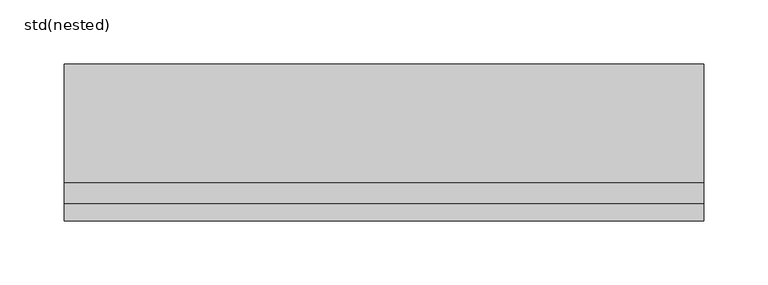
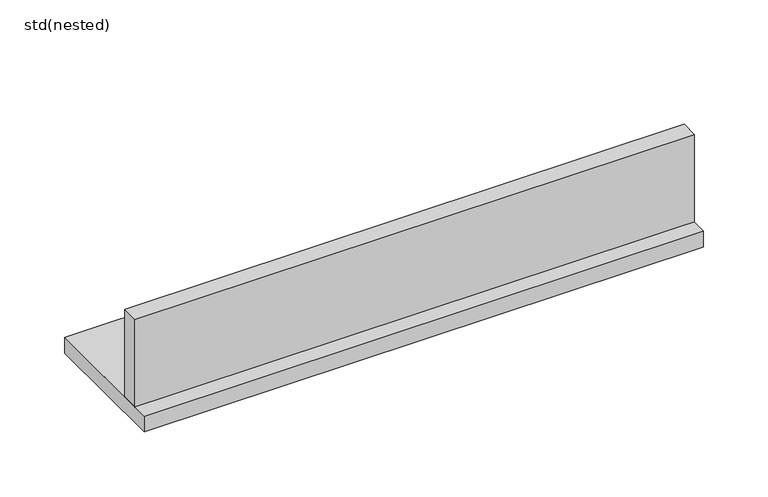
"""IFC4 building model written with IfcOpenShell, lengths in millimetres: sanitary terminal geometry, ZZZ_do not use_PF_ST_SlabDrain_H100_gratings_USA_ACO : std(nested)."""

import ifcopenshell
import ifcopenshell.guid

model = None  # the IFC model being written
_history = None  # IfcOwnerHistory: only IFC2X3 demands one
_inside = {}  # id of a spatial element -> (the spatial element, [elements in it])
_under = {}  # id of a project, library or spatial element -> (it, [spatial elements below it])
_declared = {}  # id of a project -> (the project, [libraries it declares])
_typed = {}  # id of a type object -> (the type object, [elements of that type])
_made_of = {}  # id of a material, layer set ... -> (it, [elements and type objects made of it])


def new_model(schema):
    """Start an empty IFC model of exactly this schema.

    Asked for "IFC4X3", IfcOpenShell would pick the latest addendum, in which some entities
    have other attributes; the version numbers below select the first issue.
    IFC2X3 requires an IfcOwnerHistory on every rooted entity: one is made here for all.
    """
    global model, _history
    if schema == "IFC4X3":
        model = ifcopenshell.file(schema_version=(4, 3, 0, 0))
    else:
        model = ifcopenshell.file(schema=schema)
    _inside.clear()
    _under.clear()
    _declared.clear()
    _typed.clear()
    _made_of.clear()
    _history = None
    if model.schema == "IFC2X3":
        org = make("IfcOrganization", Name="unknown")
        user = make(
            "IfcPersonAndOrganization",
            ThePerson=make("IfcPerson", FamilyName="unknown"),
            TheOrganization=org,
        )
        app = make(
            "IfcApplication",
            ApplicationDeveloper=org,
            Version="unknown",
            ApplicationFullName="unknown",
            ApplicationIdentifier="unknown",
        )
        _history = make(
            "IfcOwnerHistory",
            OwningUser=user,
            OwningApplication=app,
            ChangeAction="ADDED",
            CreationDate=0,
        )
    return model


def make(cls, **values):
    """One entity of the class cls with the attributes given. An attribute that is None is left unset."""
    return model.create_entity(
        cls, **{name: value for name, value in values.items() if value is not None}
    )


def rooted(cls, **values):
    """An entity with a GlobalId (a new one), such as an element, a storey or a relation."""
    return make(cls, GlobalId=ifcopenshell.guid.new(), OwnerHistory=_history, **values)


def si_unit(unit_type, name, prefix=None):
    """IfcSIUnit, for example si_unit("LENGTHUNIT", "METRE", prefix="MILLI")."""
    return make("IfcSIUnit", UnitType=unit_type, Prefix=prefix, Name=name)


def assignment(units):
    """IfcUnitAssignment: the units of a project."""
    return None if units is None else make("IfcUnitAssignment", Units=units)


def point(xyz):
    """IfcCartesianPoint."""
    return None if xyz is None else make("IfcCartesianPoint", Coordinates=xyz)


def direction(xyz):
    """IfcDirection."""
    return None if xyz is None else make("IfcDirection", DirectionRatios=xyz)


def frame(location, z_axis=None, x_axis=None):
    """IfcAxis2Placement3D, a coordinate frame: its origin and axes. An axis left out is left unset."""
    return make(
        "IfcAxis2Placement3D",
        Location=point(location),
        Axis=direction(z_axis),
        RefDirection=direction(x_axis),
    )


def origin():
    """The frame at (0, 0, 0) with its axes left unset."""
    return frame((0.0, 0.0, 0.0))


def place(relative_to, where):
    """IfcLocalPlacement: puts the frame where relative to a parent placement (None: the world)."""
    return make(
        "IfcLocalPlacement", PlacementRelTo=relative_to, RelativePlacement=where
    )


def context(
    kind, dimensions, precision=None, world=None, true_north=None, identifier=None
):
    """IfcGeometricRepresentationContext, for example the 3D "Model" context."""
    return make(
        "IfcGeometricRepresentationContext",
        ContextIdentifier=identifier,
        ContextType=kind,
        CoordinateSpaceDimension=dimensions,
        Precision=precision,
        WorldCoordinateSystem=world,
        TrueNorth=true_north,
    )


def project(units=None, contexts=None):
    """IfcProject with its units and contexts."""
    return rooted(
        "IfcProject",
        Name="project",
        RepresentationContexts=contexts,
        UnitsInContext=assignment(units),
    )


def spatial(cls, under=None, at=None, **own):
    """A site, building, storey or space (cls), placed at a placement, below another one or the project."""
    s = rooted(cls, ObjectPlacement=at, **own)
    if under is not None:
        _under.setdefault(under.id(), (under, []))[1].append(s)
    return s


def polyline(points):
    """IfcPolyline through the points."""
    return make("IfcPolyline", Points=[point(p) for p in points])


def outline(outer, holes=None, kind="AREA"):
    """IfcArbitraryClosedProfileDef: a profile drawn as a closed curve; with holes, ...WithVoids."""
    if holes is None:
        return make("IfcArbitraryClosedProfileDef", ProfileType=kind, OuterCurve=outer)
    return make(
        "IfcArbitraryProfileDefWithVoids",
        ProfileType=kind,
        OuterCurve=outer,
        InnerCurves=holes,
    )


def extrude(swept, where, along, depth):
    """IfcExtrudedAreaSolid: the profile swept, set in the frame where, extruded along a direction by depth."""
    return make(
        "IfcExtrudedAreaSolid",
        SweptArea=swept,
        Position=where,
        ExtrudedDirection=direction(along),
        Depth=depth,
    )


def shape(context_of_items, identifier, shape_type, items):
    """IfcShapeRepresentation: the items that make up one representation, for example the "Body"."""
    return make(
        "IfcShapeRepresentation",
        ContextOfItems=context_of_items,
        RepresentationIdentifier=identifier,
        RepresentationType=shape_type,
        Items=items,
    )


def source(mapping_origin, context_of_items, identifier, shape_type, items):
    """IfcRepresentationMap: a shape defined once, which mapped items show again and again."""
    return make(
        "IfcRepresentationMap",
        MappingOrigin=mapping_origin,
        MappedRepresentation=shape(context_of_items, identifier, shape_type, items),
    )


def transform(
    local_origin,
    x_axis=None,
    y_axis=None,
    z_axis=None,
    scale=None,
    scale2=None,
    scale3=None,
    uniform=True,
):
    """IfcCartesianTransformationOperator3D, or its non-uniform kind. x_axis, y_axis, z_axis: its Axis1, 2, 3."""
    if uniform:
        return make(
            "IfcCartesianTransformationOperator3D",
            Axis1=direction(x_axis),
            Axis2=direction(y_axis),
            LocalOrigin=point(local_origin),
            Scale=scale,
            Axis3=direction(z_axis),
        )
    return make(
        "IfcCartesianTransformationOperator3DnonUniform",
        Axis1=direction(x_axis),
        Axis2=direction(y_axis),
        LocalOrigin=point(local_origin),
        Scale=scale,
        Axis3=direction(z_axis),
        Scale2=scale2,
        Scale3=scale3,
    )


def mapped(mapping_source, mapping_target):
    """IfcMappedItem: shows the shape of a source again, moved by a transform."""
    return make(
        "IfcMappedItem", MappingSource=mapping_source, MappingTarget=mapping_target
    )


def made_of(thing, what):
    """Note that an element or type object is made of a material, layer set ...; save() writes the relation."""
    if what is not None:
        _made_of.setdefault(what.id(), (what, []))[1].append(thing)
    return thing


def element(
    cls,
    number,
    at=None,
    inside=None,
    cuts=None,
    type_object=None,
    material=None,
    context=None,
    identifier="Body",
    shape_type=None,
    held_by="IfcProductDefinitionShape",
    body=None,
    shapes=None,
    **own,
):
    """One element of the class cls, such as IfcWall. Its Tag is "e" and its number.

    at: its placement. inside: the storey or other place that contains it. cuts: it is an
    opening in that element (IfcRelVoidsElement). A single representation is given by context,
    identifier, shape_type and body (its items); several are given by shapes. held_by: the class
    of the entity that holds the representations. save() writes the other relations.
    """
    e = rooted(cls, Tag="e%d" % number, ObjectPlacement=at, **own)
    if body is not None:
        shapes = [shape(context, identifier, shape_type, body)]
    if shapes is not None:
        e.Representation = make(held_by, Representations=shapes)
    if inside is not None:
        _inside.setdefault(inside.id(), (inside, []))[1].append(e)
    if cuts is not None:
        rooted(
            "IfcRelVoidsElement", RelatingBuildingElement=cuts, RelatedOpeningElement=e
        )
    if type_object is not None:
        _typed.setdefault(type_object.id(), (type_object, []))[1].append(e)
    return made_of(e, material)


def aggregate(whole, parts):
    """IfcRelAggregates: a whole, such as a stair, and the parts it consists of."""
    return rooted("IfcRelAggregates", RelatingObject=whole, RelatedObjects=parts)


def save(model, path):
    """Write the relations noted so far, then the file.

    IfcRelAggregates (storeys below a building ...), IfcRelContainedInSpatialStructure (elements
    in a storey), IfcRelDefinesByType, IfcRelAssociatesMaterial and IfcRelDeclares: one each for
    every whole, place, type object, material and project.
    """
    for whole, parts in _under.values():
        aggregate(whole, parts)
    for where, things in _inside.values():
        rooted(
            "IfcRelContainedInSpatialStructure",
            RelatedElements=things,
            RelatingStructure=where,
        )
    for kind, things in _typed.values():
        rooted("IfcRelDefinesByType", RelatedObjects=things, RelatingType=kind)
    for what, things in _made_of.values():
        rooted("IfcRelAssociatesMaterial", RelatedObjects=things, RelatingMaterial=what)
    for by, libraries in _declared.values():
        rooted("IfcRelDeclares", RelatingContext=by, RelatedDefinitions=libraries)
    model.write(path)


def std_nested_1a0069e3(model_context):
    return source(origin(), model_context, "Body", "SweptSolid", [
        extrude(outline(polyline([(249.999, 61.5), (249.999, -61.5), (-249.999, -61.5), (-249.999, 61.5), (249.999, 61.5)])), frame((0.0, 0.0, -98.0), z_axis=(0.0, 0.0, 1.0), x_axis=(1.0, 0.0, 0.0)), (0.0, 0.0, 1.0), 15.0),
        extrude(outline(polyline([(249.999, -47.5), (-249.999, -47.5), (-249.999, -31.5), (249.999, -31.5), (249.999, -47.5)])), frame((0.0, 0.0, -83.0), z_axis=(0.0, 0.0, 1.0), x_axis=(1.0, 0.0, 0.0)), (0.0, 0.0, 1.0), 83.0),
    ])


if __name__ == "__main__":
    model = new_model("IFC4")
    model_context = context("Model", 3, world=origin())
    ifc_project = project(units=[si_unit("LENGTHUNIT", "METRE", prefix="MILLI")], contexts=[model_context])
    site = spatial("IfcSite", under=ifc_project)
    building = spatial("IfcBuilding", under=site)
    placement = place(None, origin())
    std_nested_shape = std_nested_1a0069e3(model_context)
    element("IfcSanitaryTerminal", 1, ObjectType="ZZZ_do not use_PF_ST_SlabDrain_H100_gratings_USA_ACO : std(nested)", at=placement, inside=building, context=model_context, shape_type="MappedRepresentation", body=[
        mapped(std_nested_shape, transform((0.0, 0.0, 0.0), x_axis=(1.0, 0.0, 0.0), y_axis=(0.0, 1.0, 0.0), z_axis=(0.0, 0.0, 1.0))),
    ])
    save(model, "model.ifc")
